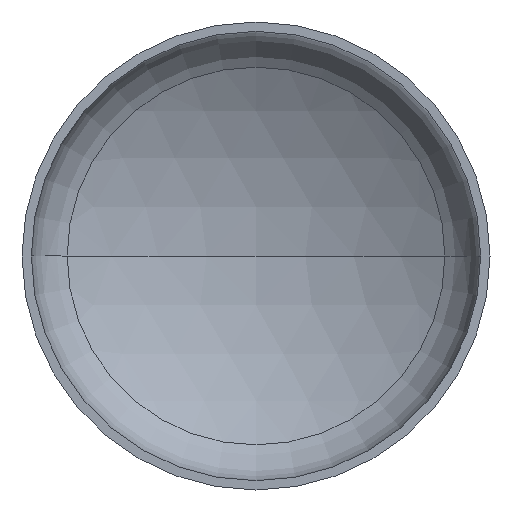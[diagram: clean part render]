
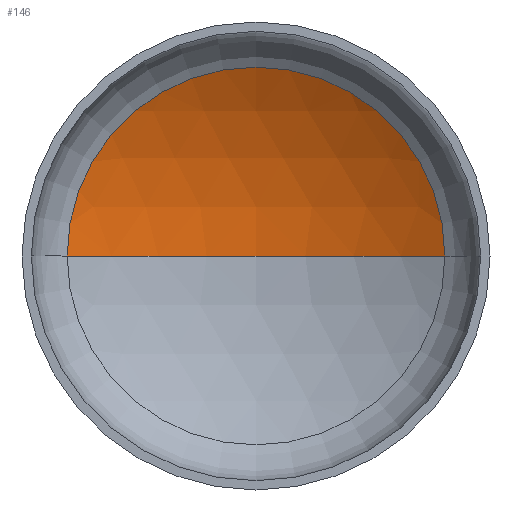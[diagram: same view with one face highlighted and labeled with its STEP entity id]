
A CAD part, front view. The second image highlights one B-rep face of the part: STEP entity #146.
In plain terms, the highlighted spherical face has radius 4800 mm.
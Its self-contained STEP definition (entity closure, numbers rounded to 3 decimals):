
#4 = CARTESIAN_POINT ( 'NONE',  ( -2421.677, 873.647, 0. ) ) ;
#9 = AXIS2_PLACEMENT_3D ( 'NONE', #170, #171, #155 ) ;
#10 = AXIS2_PLACEMENT_3D ( 'NONE', #148, #259, #258 ) ;
#11 = AXIS2_PLACEMENT_3D ( 'NONE', #254, #253, #252 ) ;
#24 = CARTESIAN_POINT ( 'NONE',  ( 2421.677, 873.647, 0. ) ) ;
#49 = EDGE_CURVE ( 'NONE', #193, #76, #257, .T. ) ;
#50 = EDGE_CURVE ( 'NONE', #220, #193, #180, .T. ) ;
#55 = EDGE_CURVE ( 'NONE', #220, #76, #97, .T. ) ;
#74 = FACE_OUTER_BOUND ( 'NONE', #154, .T. ) ;
#76 = VERTEX_POINT ( 'NONE', #4 ) ;
#97 = CIRCLE ( 'NONE', #9, 4800. ) ;
#124 = CARTESIAN_POINT ( 'NONE',  ( 0., 1529.316, 0. ) ) ;
#146 = ADVANCED_FACE ( 'NONE', ( #74 ), #386, .F. ) ;
#148 = CARTESIAN_POINT ( 'NONE',  ( 0., -3270.684, 0. ) ) ;
#154 = EDGE_LOOP ( 'NONE', ( #397, #370, #214 ) ) ;
#155 = DIRECTION ( 'NONE',  ( 1., 0., 0. ) ) ;
#170 = CARTESIAN_POINT ( 'NONE',  ( 0., -3270.684, 0. ) ) ;
#171 = DIRECTION ( 'NONE',  ( 0., 0., 1. ) ) ;
#180 = CIRCLE ( 'NONE', #10, 4800. ) ;
#193 = VERTEX_POINT ( 'NONE', #24 ) ;
#211 = DIRECTION ( 'NONE',  ( 0., 0., -1. ) ) ;
#214 = ORIENTED_EDGE ( 'NONE', *, *, #49, .T. ) ;
#218 = CARTESIAN_POINT ( 'NONE',  ( 0., -3270.684, 0. ) ) ;
#220 = VERTEX_POINT ( 'NONE', #124 ) ;
#234 = DIRECTION ( 'NONE',  ( -1., 0., 0. ) ) ;
#252 = DIRECTION ( 'NONE',  ( 1., 0., 0. ) ) ;
#253 = DIRECTION ( 'NONE',  ( 0., -1., 0. ) ) ;
#254 = CARTESIAN_POINT ( 'NONE',  ( 0., 873.647, 0. ) ) ;
#257 = CIRCLE ( 'NONE', #11, 2421.677 ) ;
#258 = DIRECTION ( 'NONE',  ( -1., 0., 0. ) ) ;
#259 = DIRECTION ( 'NONE',  ( 0., 0., -1. ) ) ;
#302 = AXIS2_PLACEMENT_3D ( 'NONE', #218, #211, #234 ) ;
#370 = ORIENTED_EDGE ( 'NONE', *, *, #50, .T. ) ;
#386 = SPHERICAL_SURFACE ( 'NONE', #302, 4800. ) ;
#397 = ORIENTED_EDGE ( 'NONE', *, *, #55, .F. ) ;
